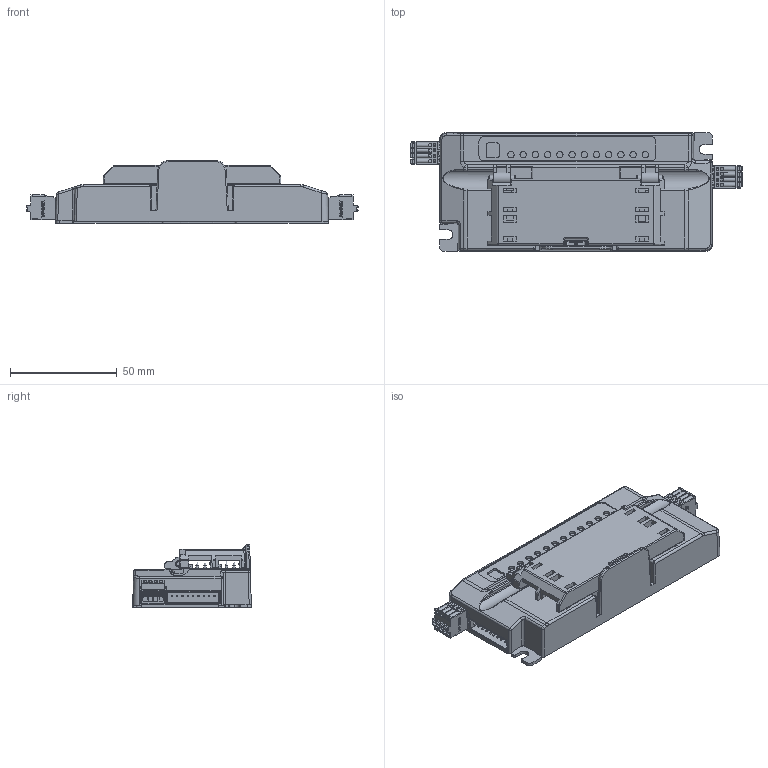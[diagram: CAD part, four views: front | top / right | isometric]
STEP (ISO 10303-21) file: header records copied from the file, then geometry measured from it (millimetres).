
FILE_DESCRIPTION(/* description */ (''),/* implementation_level */ '2;1');
FILE_NAME(/* name */ '外驱BD-1.5.stp',/* time_stamp */ '2026-04-28T09:41:47+08:00',/* author */ (''),/* organization */ (''),/* preprocessor_version */ 'ST-DEVELOPER v19.4',/* originating_system */ 'SIEMENS PLM Software NX2212.7001',/* authorisation */ '');
FILE_SCHEMA (('AUTOMOTIVE_DESIGN { 1 0 10303 214 3 1 1 1 }'));
Products named in the file (1): 外驱BD-1.5_x_t_objects
Bounding box: 155.72 x 55.78 x 29.5 mm (x, y, z)
Volume: 128065.2 mm3; surface area: 42407.3 mm2
Topology: 2 solids, 22 shells, 3310 faces, 9179 edges, 6005 vertices
Faces by surface type: plane 2492, cylinder 620, extrusion 76, bspline 36, sphere 32, cone 30, torus 24
Full cylindrical faces by diameter (mm): 1.2 x4, 1.25 x4, 2 x4, 2.95 x2, 3 x12
Entity records: 128456 total; most frequent: CARTESIAN_POINT 23520, ORIENTED_EDGE 18198, DIRECTION 16623, EDGE_CURVE 9099, VECTOR 7459, LINE 7383, VERTEX_POINT 5992, AXIS2_PLACEMENT_3D 4582
